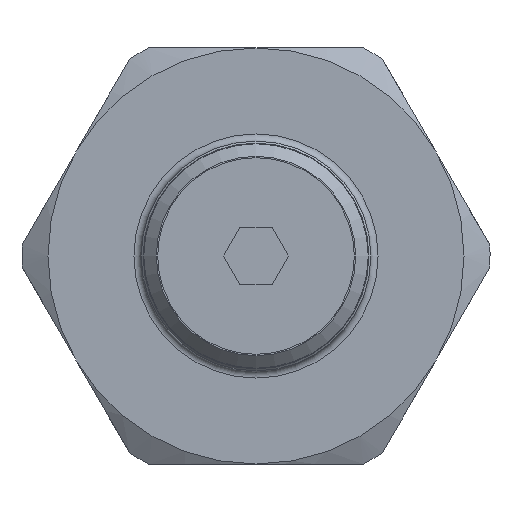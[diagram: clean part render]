
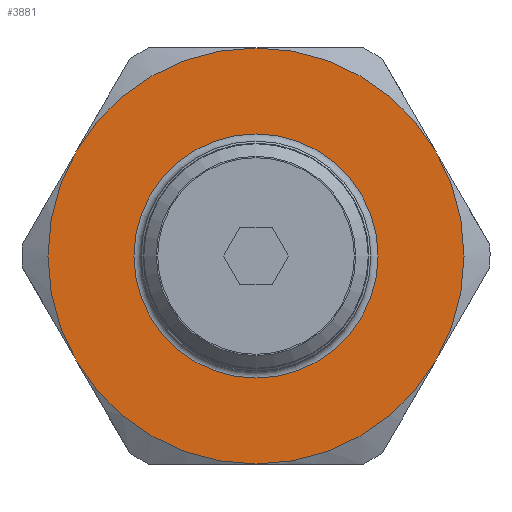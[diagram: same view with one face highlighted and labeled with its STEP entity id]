
A CAD part, left-side view. The second image highlights one B-rep face of the part: STEP entity #3881.
In plain terms, the highlighted planar face has unit normal (-1, 0, 0).
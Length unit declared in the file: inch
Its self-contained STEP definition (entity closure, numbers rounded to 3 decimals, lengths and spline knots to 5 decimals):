
#692=FACE_BOUND('',#1093,.T.);
#762=PLANE('',#4221);
#860=FACE_OUTER_BOUND('',#1092,.T.);
#1092=EDGE_LOOP('',(#2889));
#1093=EDGE_LOOP('',(#2890,#2891));
#1367=CIRCLE('',#4154,0.272);
#1372=CIRCLE('',#4159,0.272);
#1413=CIRCLE('',#4222,0.4635);
#1636=VERTEX_POINT('',#5846);
#1637=VERTEX_POINT('',#5847);
#1681=VERTEX_POINT('',#5978);
#2095=EDGE_CURVE('',#1636,#1637,#1367,.T.);
#2100=EDGE_CURVE('',#1637,#1636,#1372,.T.);
#2160=EDGE_CURVE('',#1681,#1681,#1413,.T.);
#2889=ORIENTED_EDGE('',*,*,#2160,.T.);
#2890=ORIENTED_EDGE('',*,*,#2095,.F.);
#2891=ORIENTED_EDGE('',*,*,#2100,.F.);
#3881=ADVANCED_FACE('',(#860,#692),#762,.T.);
#4154=AXIS2_PLACEMENT_3D('',#5848,#4736,#4737);
#4159=AXIS2_PLACEMENT_3D('',#5856,#4746,#4747);
#4221=AXIS2_PLACEMENT_3D('',#5977,#4889,#4890);
#4222=AXIS2_PLACEMENT_3D('',#5979,#4891,#4892);
#4736=DIRECTION('center_axis',(-1.,0.,0.));
#4737=DIRECTION('ref_axis',(0.,0.,1.));
#4746=DIRECTION('center_axis',(-1.,0.,0.));
#4747=DIRECTION('ref_axis',(0.,0.,1.));
#4889=DIRECTION('center_axis',(-1.,0.,0.));
#4890=DIRECTION('ref_axis',(0.,0.,1.));
#4891=DIRECTION('center_axis',(-1.,0.,0.));
#4892=DIRECTION('ref_axis',(0.,0.,-1.));
#5846=CARTESIAN_POINT('',(-0.484,0.272,0.));
#5847=CARTESIAN_POINT('',(-0.484,0.,-0.272));
#5848=CARTESIAN_POINT('Origin',(-0.484,0.,0.));
#5856=CARTESIAN_POINT('Origin',(-0.484,0.,0.));
#5977=CARTESIAN_POINT('Origin',(-0.484,0.,
0.));
#5978=CARTESIAN_POINT('',(-0.484,0.,0.4635));
#5979=CARTESIAN_POINT('Origin',(-0.484,0.,0.));
